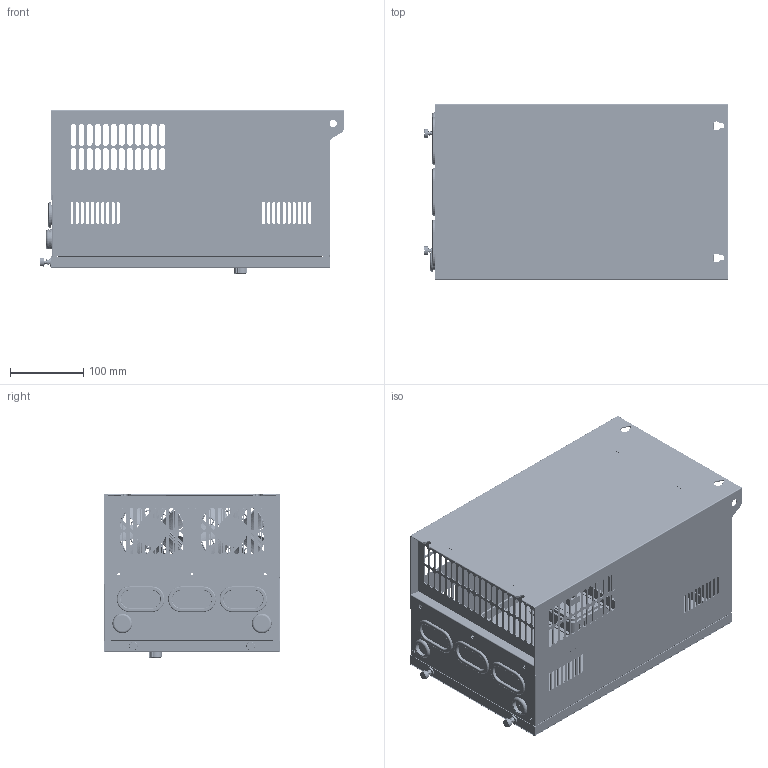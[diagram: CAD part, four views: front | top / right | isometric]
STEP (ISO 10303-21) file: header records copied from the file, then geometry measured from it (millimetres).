
FILE_DESCRIPTION((''),'2;1');
FILE_NAME('30-37KW_3D_ASM_187_ASM_1_ASM','2022-07-18T',('Administrator'),(''),'PRO/ENGINEER BY PARAMETRIC TECHNOLOGY CORPORATION, 2010280','PRO/ENGINEER BY PARAMETRIC TECHNOLOGY CORPORATION, 2010280','');
FILE_SCHEMA(('AUTOMOTIVE_DESIGN_CC2 { 1 2 10303 214 -1 1 5 2 }'));
Products named in the file (98): MANIFOLD_SOLID_BREP_23860_AF0_1; 5G3LM3F001_191_AF0_ASM_1_ASM; MANIFOLD_SOLID_BREP_28742_1; MANIFOLD_SOLID_BREP_28999_1; MANIFOLD_SOLID_BREP_29256_1; _5G3LM3F002_128_1; 5G3LM3F002_128_ASM_1_ASM; MANIFOLD_SOLID_BREP_39266_AF0_1; 5G3LM3F005_73_AF0_ASM_1_ASM; MANIFOLD_SOLID_BREP_54895_AF0_1; 5G3LM3F006_209_AF0_ASM_1_ASM; 5G3LM2F001_ASM_146_AF0_ASM_1_ASM; MANIFOLD_SOLID_BREP_69585_1; MANIFOLD_SOLID_BREP_69787_1; MANIFOLD_SOLID_BREP_69989_1; MANIFOLD_SOLID_BREP_70191_1; MANIFOLD_SOLID_BREP_70393_1; _5G3LM3F010_109_1; 5G3LM3F010_109_ASM_1_ASM; MANIFOLD_SOLID_BREP_74389_AF0_1; 5G3LM3F013_70_AF0_ASM_1_ASM; 5G3LM3F014_124_1; YDS_A1_M4-16_17_1; 5G3LM1F001_ASM_129_AF0_ASM_1_ASM; 5G3AZ3S002_3_1; 5G3AZ3S003_2_1; PCB_KEY_3_1; MANIFOLD_SOLID_BREP_358611_1; MANIFOLD_SOLID_BREP_360755_1; MANIFOLD_SOLID_BREP_360919_1; MANIFOLD_SOLID_BREP_361083_1; MANIFOLD_SOLID_BREP_361511_1; MANIFOLD_SOLID_BREP_361675_1; MANIFOLD_SOLID_BREP_361839_1; MANIFOLD_SOLID_BREP_362003_1; MANIFOLD_SOLID_BREP_364283_1; MANIFOLD_SOLID_BREP_364711_1; MANIFOLD_SOLID_BREP_365007_1; MANIFOLD_SOLID_BREP_365369_1; MANIFOLD_SOLID_BREP_365797_1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
Assembly tree (103 placements, depth 5):
  30-37KW_3D_ASM_187_ASM_1_ASM
    5G3LM1F001_ASM_129_AF0_ASM_1_ASM
      5G3LM2F001_ASM_146_AF0_ASM_1_ASM
        5G3LM3F001_191_AF0_ASM_1_ASM
          MANIFOLD_SOLID_BREP_23860_AF0_1
        5G3LM3F002_128_ASM_1_ASM
          MANIFOLD_SOLID_BREP_28742_1
          MANIFOLD_SOLID_BREP_28999_1
          MANIFOLD_SOLID_BREP_29256_1
          _5G3LM3F002_128_1
        5G3LM3F005_73_AF0_ASM_1_ASM
          MANIFOLD_SOLID_BREP_39266_AF0_1
        5G3LM3F006_209_AF0_ASM_1_ASM
          MANIFOLD_SOLID_BREP_54895_AF0_1
      5G3LM3F010_109_ASM_1_ASM
        MANIFOLD_SOLID_BREP_69585_1
        MANIFOLD_SOLID_BREP_69787_1
        MANIFOLD_SOLID_BREP_69989_1
        MANIFOLD_SOLID_BREP_70191_1
        MANIFOLD_SOLID_BREP_70393_1
        _5G3LM3F010_109_1
      5G3LM3F013_70_AF0_ASM_1_ASM
        MANIFOLD_SOLID_BREP_74389_AF0_1
      5G3LM3F014_124_1
      YDS_A1_M4-16_17_1  x2
    PI500_KEY_NEW_ASM_92_ASM_1_ASM
      KEY_PI500_ASM_6_ASM_1_ASM
        5G3AZ3S002_3_1
        5G3AZ3S003_2_1
        PCB_KEY_3_1
        5G3AZ3S005_3_ASM_1_ASM
          MANIFOLD_SOLID_BREP_358611_1
          MANIFOLD_SOLID_BREP_360755_1
          MANIFOLD_SOLID_BREP_360919_1
          MANIFOLD_SOLID_BREP_361083_1
          MANIFOLD_SOLID_BREP_361511_1
          MANIFOLD_SOLID_BREP_361675_1
          MANIFOLD_SOLID_BREP_361839_1
          MANIFOLD_SOLID_BREP_362003_1
          MANIFOLD_SOLID_BREP_364283_1
          MANIFOLD_SOLID_BREP_364711_1
          MANIFOLD_SOLID_BREP_365007_1
          MANIFOLD_SOLID_BREP_365369_1
          MANIFOLD_SOLID_BREP_365797_1
          MANIFOLD_SOLID_BREP_368242_1
          MANIFOLD_SOLID_BREP_370155_1
          MANIFOLD_SOLID_BREP_370517_1
          MANIFOLD_SOLID_BREP_370681_1
          MANIFOLD_SOLID_BREP_370977_1
          MANIFOLD_SOLID_BREP_375035_1
          MANIFOLD_SOLID_BREP_378668_1
          MANIFOLD_SOLID_BREP_380618_1
          MANIFOLD_SOLID_BREP_380914_1
          MANIFOLD_SOLID_BREP_385005_1
          MANIFOLD_SOLID_BREP_387252_1
          MANIFOLD_SOLID_BREP_389202_1
          MANIFOLD_SOLID_BREP_391713_1
          MANIFOLD_SOLID_BREP_395441_1
          MANIFOLD_SOLID_BREP_395704_1
          MANIFOLD_SOLID_BREP_395967_1
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Bounding box: 414.9 x 240 x 222.79 mm (x, y, z)
Volume: 1649859.4 mm3; surface area: 2458931.7 mm2
Topology: 95 solids, 205 shells, 7940 faces, 56055 edges, 67504 vertices
Faces by surface type: plane 5743, cylinder 1422, extrusion 220, torus 218, bspline 156, cone 145, sphere 36
Entity records: 568775 total; most frequent: CARTESIAN_POINT 101294, DIRECTION 72370, VECTOR 43280, LINE 43139, ORIENTED_EDGE 40296, PRESENTATION_STYLE_ASSIGNMENT 38826, STYLED_ITEM 38826, CURVE_STYLE 34975
